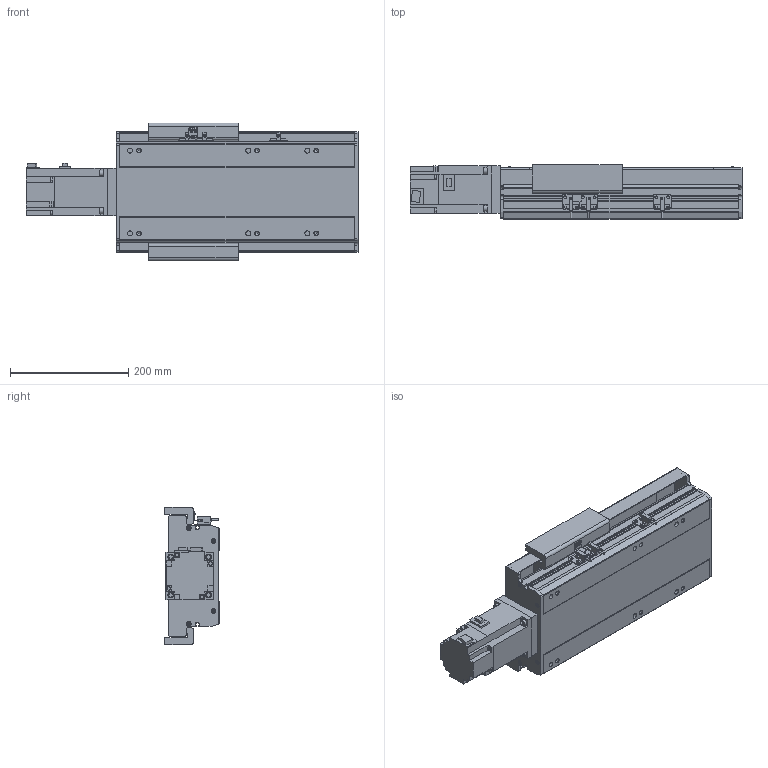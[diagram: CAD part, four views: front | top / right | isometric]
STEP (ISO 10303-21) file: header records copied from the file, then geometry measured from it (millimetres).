
FILE_DESCRIPTION(/* description */ ('STEP AP214'),/* implementation_level */ '2;1');
FILE_NAME(/* name */ 'PSM170-L10-S150-BC-T75-C1-N(0)',/* time_stamp */ '2022-06-13T03:23:44+02:00',/* author */ ('License CC BY-ND 4.0'),/* organization */ ('CADENAS'),/* preprocessor_version */ 'ST-DEVELOPER v18.102',/* originating_system */ 'PARTsolutions',/* authorisation */ ' ');
FILE_SCHEMA (('AUTOMOTIVE_DESIGN {1 0 10303 214 3 1 1}'));
Length unit declared in the file: millimetre
Products named in the file (8): PSM170-L10-S150-BC-T75-C1-N(0); PSM-Sensor; PSM140-S150-392.5; T75-p1; PSM170_body2; PSM170_body3; PSM170-S150_body1; PSM170-L10-S150-BC-T75-C1-N(0)_dummy
Assembly tree (11 placements, depth 2):
  PSM170-L10-S150-BC-T75-C1-N(0)
    PSM-Sensor  x3
    PSM140-S150-392.5  x3
    T75-p1
    PSM170_body2
    PSM170_body3
    PSM170-S150_body1
    PSM170-L10-S150-BC-T75-C1-N(0)_dummy
Bounding box: 561.3 x 92 x 233 mm (x, y, z)
Volume: 3736636.7 mm3; surface area: 694711.8 mm2
Topology: 10 solids, 10 shells, 975 faces, 2591 edges, 1688 vertices
Faces by surface type: plane 636, cylinder 273, cone 52, torus 14
Full cylindrical faces by diameter (mm): 2.8 x3, 3.08 x1, 4.134 x4, 4.5 x12, 4.6 x3, 5.7 x2, 6 x9, 6.647 x14, 7 x8, 7.6 x4, 8 x8, 8.5 x6, 10 x4, 14 x6, 45 x1, 70 x1
Entity records: 25309 total; most frequent: CARTESIAN_POINT 4518, DIRECTION 4270, ORIENTED_EDGE 4076, EDGE_CURVE 2038, LINE 1424, VECTOR 1424, AXIS2_PLACEMENT_3D 1423, VERTEX_POINT 1418
